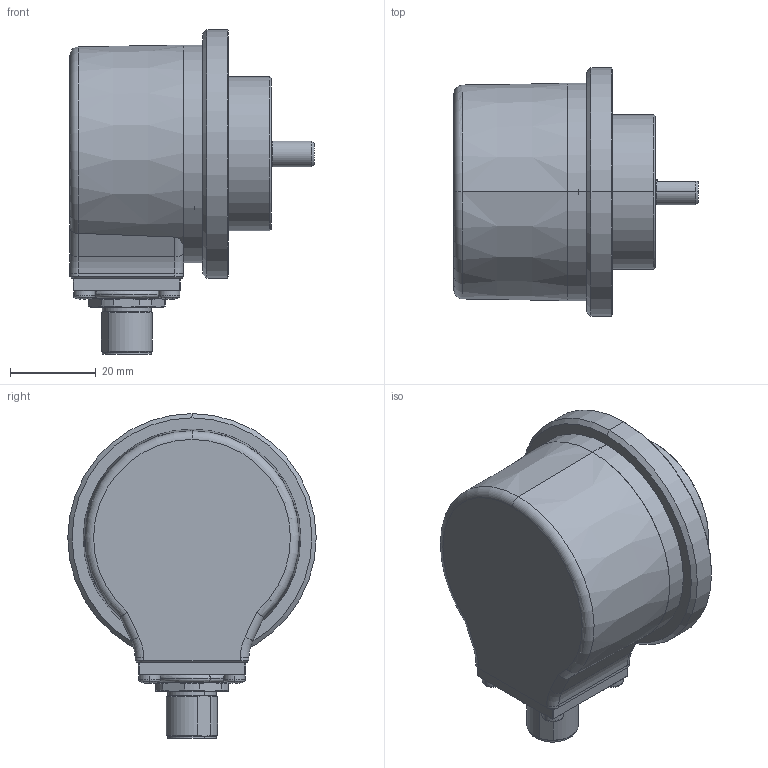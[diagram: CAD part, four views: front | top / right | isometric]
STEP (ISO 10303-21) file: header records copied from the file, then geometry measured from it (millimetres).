
FILE_DESCRIPTION (( 'STEP AP203' ), '1' );
FILE_NAME ('8.5000.817R.XXXX.STEP', '2017-04-05T07:25:49', ( '' ), ( '' ), 'SwSTEP 2.0', 'SolidWorks 2017', '' );
FILE_SCHEMA (( 'CONFIG_CONTROL_DESIGN' ));
Length unit declared in the file: millimetre
Products named in the file (1): 8.5000.817R.XXXX
Bounding box: 57 x 58 x 75.8 mm (x, y, z)
Surface area: 34049 mm2 (no closed solid volume)
Topology: 0 solids, 15 shells, 605 faces, 1437 edges, 852 vertices
Faces by surface type: plane 202, cylinder 172, cone 110, bspline 62, torus 47, sphere 12
Entity records: 19690 total; most frequent: CARTESIAN_POINT 5982, DIRECTION 2978, ORIENTED_EDGE 2746, EDGE_CURVE 1381, AXIS2_PLACEMENT_3D 1224, VERTEX_POINT 852, EDGE_LOOP 695, CIRCLE 680
